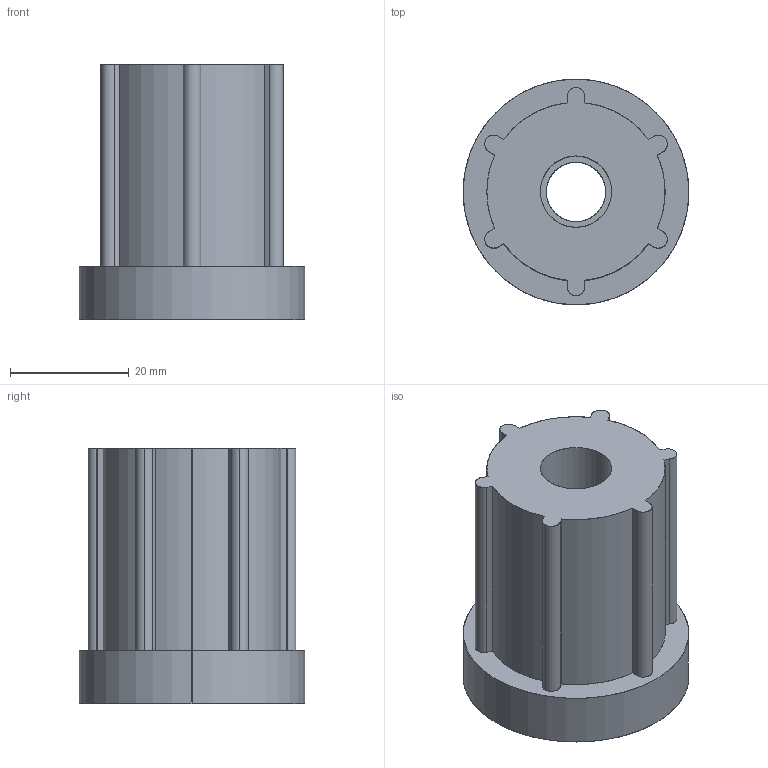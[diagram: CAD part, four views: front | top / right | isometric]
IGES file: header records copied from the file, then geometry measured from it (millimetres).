
Start section: SolidWorks IGES file using analytic representation for surfaces
Global section: file name: C:\Documents and Settings\URETIM3\Desktop\yeni katalog tolgay düzenli\A kataloðu\235 yuvarlak profil klavuzlari\235 381 510.IGS; native system: SolidWorks 2006 by SolidWorks Corporation; preprocessor: SolidWorks 2006 by SolidWorks Corporation; author: URETIM3; date: 060912.093309; units: millimetre
Bounding box: 38 x 38 x 43 mm (x, y, z)
Surface area: 8741.8 mm2 (no closed solid volume)
Topology: 0 solids, 0 shells, 41 faces, 708 edges, 708 vertices
Faces by surface type: revolution 25, bspline 16
